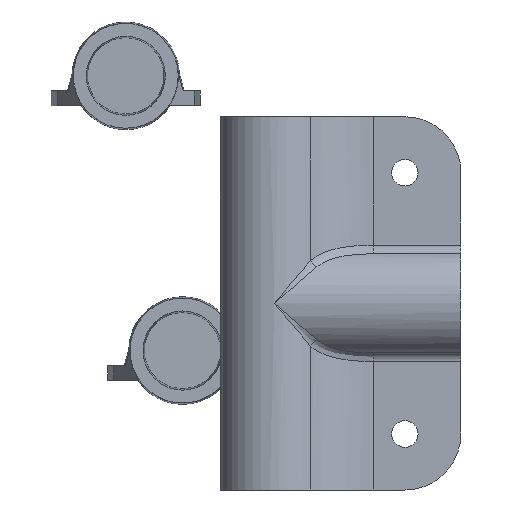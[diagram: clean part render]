
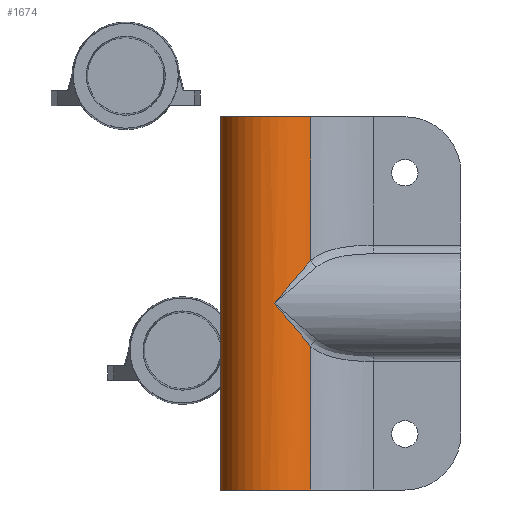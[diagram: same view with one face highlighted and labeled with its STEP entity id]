
A CAD part, front view. The second image highlights one B-rep face of the part: STEP entity #1674.
In plain terms, the highlighted cylindrical face has radius 9.144 mm (diameter 18.288 mm), a partial arc.
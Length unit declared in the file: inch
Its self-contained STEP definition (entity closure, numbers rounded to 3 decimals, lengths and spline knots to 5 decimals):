
#63 = DIRECTION ( 'NONE',  ( 1., 0., 0. ) ) ;
#69 = ORIENTED_EDGE ( 'NONE', *, *, #6179, .T. ) ;
#87 = VERTEX_POINT ( 'NONE', #1442 ) ;
#92 = DIRECTION ( 'NONE',  ( 0., 0., -1. ) ) ;
#136 = EDGE_CURVE ( 'NONE', #5967, #2848, #2343, .T. ) ;
#205 = DIRECTION ( 'NONE',  ( 0., 0., 1. ) ) ;
#417 = ORIENTED_EDGE ( 'NONE', *, *, #3920, .T. ) ;
#600 = VECTOR ( 'NONE', #3998, 39.37008 ) ;
#668 = CARTESIAN_POINT ( 'NONE',  ( -0.09267, 1.1857, 3.06398 ) ) ;
#803 = VERTEX_POINT ( 'NONE', #4943 ) ;
#875 =( BOUNDED_CURVE ( )  B_SPLINE_CURVE ( 3, ( #1296, #2352, #5634, #2400 ),
 .UNSPECIFIED., .F., .T. ) 
 B_SPLINE_CURVE_WITH_KNOTS ( ( 4, 4 ),
 ( 3.9688, 4.71239 ),
 .UNSPECIFIED. ) 
 CURVE ( )  GEOMETRIC_REPRESENTATION_ITEM ( )  RATIONAL_B_SPLINE_CURVE ( ( 1., 0.954, 0.954, 1. ) ) 
 REPRESENTATION_ITEM ( '' )  );
#1009 = EDGE_CURVE ( 'NONE', #87, #5981, #875, .T. ) ;
#1243 = AXIS2_PLACEMENT_3D ( 'NONE', #2676, #6447, #3226 ) ;
#1277 = DIRECTION ( 'NONE',  ( 0., 0., 1. ) ) ;
#1294 = CARTESIAN_POINT ( 'NONE',  ( -0.09267, 1.1857, 3.06398 ) ) ;
#1296 = CARTESIAN_POINT ( 'NONE',  ( 0.51103, 0.92073, 1.52797 ) ) ;
#1398 = DIRECTION ( 'NONE',  ( -1., 0., 0. ) ) ;
#1442 = CARTESIAN_POINT ( 'NONE',  ( 0.51103, 0.92073, 1.52797 ) ) ;
#1608 = AXIS2_PLACEMENT_3D ( 'NONE', #2503, #3561, #1398 ) ;
#1674 = ADVANCED_FACE ( 'NONE', ( #2757 ), #5116, .T. ) ;
#1695 = EDGE_CURVE ( 'NONE', #2016, #803, #3674, .T. ) ;
#1767 = ORIENTED_EDGE ( 'NONE', *, *, #6004, .T. ) ;
#1812 = CARTESIAN_POINT ( 'NONE',  ( 0.51103, 0.92073, 3.06398 ) ) ;
#1836 = ORIENTED_EDGE ( 'NONE', *, *, #3428, .T. ) ;
#1946 = VERTEX_POINT ( 'NONE', #4308 ) ;
#1960 = ORIENTED_EDGE ( 'NONE', *, *, #6199, .T. ) ;
#2016 = VERTEX_POINT ( 'NONE', #668 ) ;
#2343 = CIRCLE ( 'NONE', #3648, 0.36 ) ;
#2352 = CARTESIAN_POINT ( 'NONE',  ( 0.44379, 0.85889, 1.60688 ) ) ;
#2400 = CARTESIAN_POINT ( 'NONE',  ( 0.26733, 0.8257, 1.81398 ) ) ;
#2503 = CARTESIAN_POINT ( 'NONE',  ( 0.26733, 1.1857, 3.06398 ) ) ;
#2676 = CARTESIAN_POINT ( 'NONE',  ( 0.26733, 1.1857, 3.06398 ) ) ;
#2757 = FACE_OUTER_BOUND ( 'NONE', #5777, .T. ) ;
#2848 = VERTEX_POINT ( 'NONE', #4898 ) ;
#2899 = CARTESIAN_POINT ( 'NONE',  ( 0.51103, 0.92073, 3.06398 ) ) ;
#3118 = VERTEX_POINT ( 'NONE', #4618 ) ;
#3226 = DIRECTION ( 'NONE',  ( 1., 0., 0. ) ) ;
#3240 = CARTESIAN_POINT ( 'NONE',  ( 0.44379, 0.85889, 2.02107 ) ) ;
#3315 = DIRECTION ( 'NONE',  ( 0., 0., 1. ) ) ;
#3317 = ORIENTED_EDGE ( 'NONE', *, *, #1009, .T. ) ;
#3428 = EDGE_CURVE ( 'NONE', #2848, #87, #5603, .T. ) ;
#3490 = LINE ( 'NONE', #1294, #600 ) ;
#3561 = DIRECTION ( 'NONE',  ( 0., 0., -1. ) ) ;
#3648 = AXIS2_PLACEMENT_3D ( 'NONE', #6542, #3315, #63 ) ;
#3654 = VECTOR ( 'NONE', #205, 39.37008 ) ;
#3674 = CIRCLE ( 'NONE', #1243, 0.36 ) ;
#3702 = CARTESIAN_POINT ( 'NONE',  ( 0.26733, 0.8257, 1.81398 ) ) ;
#3920 = EDGE_CURVE ( 'NONE', #2016, #1946, #4017, .T. ) ;
#3998 = DIRECTION ( 'NONE',  ( 0., 0., -1. ) ) ;
#4017 = LINE ( 'NONE', #6580, #6876 ) ;
#4043 = ORIENTED_EDGE ( 'NONE', *, *, #1695, .F. ) ;
#4296 = CARTESIAN_POINT ( 'NONE',  ( 0.26733, 0.8257, 1.81398 ) ) ;
#4308 = CARTESIAN_POINT ( 'NONE',  ( -0.09267, 1.1857, 1.81398 ) ) ;
#4618 = CARTESIAN_POINT ( 'NONE',  ( 0.51103, 0.92073, 2.09999 ) ) ;
#4861 =( BOUNDED_CURVE ( )  B_SPLINE_CURVE ( 3, ( #4296, #5386, #3240, #7000 ),
 .UNSPECIFIED., .F., .T. ) 
 B_SPLINE_CURVE_WITH_KNOTS ( ( 4, 4 ),
 ( 1.5708, 2.31439 ),
 .UNSPECIFIED. ) 
 CURVE ( )  GEOMETRIC_REPRESENTATION_ITEM ( )  RATIONAL_B_SPLINE_CURVE ( ( 1., 0.954, 0.954, 1. ) ) 
 REPRESENTATION_ITEM ( '' )  );
#4898 = CARTESIAN_POINT ( 'NONE',  ( 0.51103, 0.92073, 0.56398 ) ) ;
#4943 = CARTESIAN_POINT ( 'NONE',  ( 0.51103, 0.92073, 3.06398 ) ) ;
#5080 = ORIENTED_EDGE ( 'NONE', *, *, #136, .T. ) ;
#5116 = CYLINDRICAL_SURFACE ( 'NONE', #1608, 0.36 ) ;
#5386 = CARTESIAN_POINT ( 'NONE',  ( 0.35868, 0.8257, 1.92119 ) ) ;
#5603 = LINE ( 'NONE', #2899, #6855 ) ;
#5634 = CARTESIAN_POINT ( 'NONE',  ( 0.35868, 0.8257, 1.70677 ) ) ;
#5745 = CARTESIAN_POINT ( 'NONE',  ( -0.09267, 1.1857, 0.56398 ) ) ;
#5777 = EDGE_LOOP ( 'NONE', ( #4043, #417, #1960, #5080, #1836, #3317, #1767, #69 ) ) ;
#5967 = VERTEX_POINT ( 'NONE', #5745 ) ;
#5981 = VERTEX_POINT ( 'NONE', #3702 ) ;
#6004 = EDGE_CURVE ( 'NONE', #5981, #3118, #4861, .T. ) ;
#6179 = EDGE_CURVE ( 'NONE', #3118, #803, #6353, .T. ) ;
#6199 = EDGE_CURVE ( 'NONE', #1946, #5967, #3490, .T. ) ;
#6353 = LINE ( 'NONE', #1812, #3654 ) ;
#6447 = DIRECTION ( 'NONE',  ( 0., 0., 1. ) ) ;
#6542 = CARTESIAN_POINT ( 'NONE',  ( 0.26733, 1.1857, 0.56398 ) ) ;
#6580 = CARTESIAN_POINT ( 'NONE',  ( -0.09267, 1.1857, 3.06398 ) ) ;
#6855 = VECTOR ( 'NONE', #1277, 39.37008 ) ;
#6876 = VECTOR ( 'NONE', #92, 39.37008 ) ;
#7000 = CARTESIAN_POINT ( 'NONE',  ( 0.51103, 0.92073, 2.09999 ) ) ;
